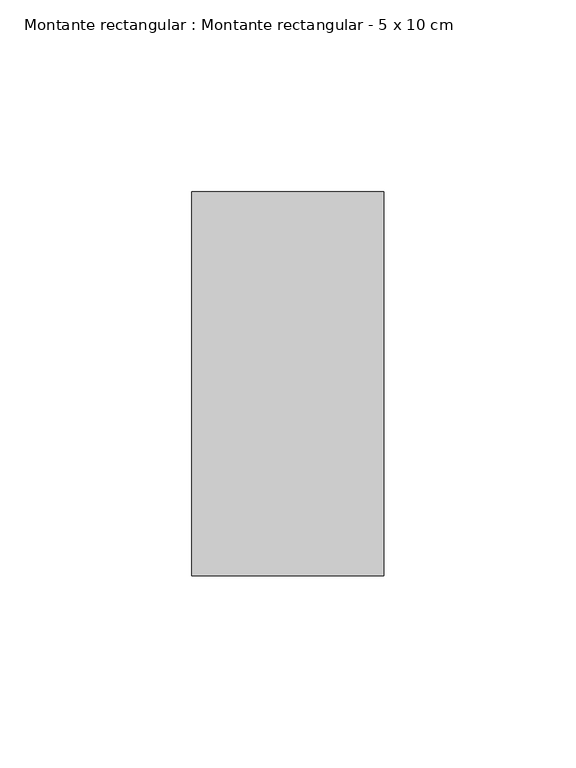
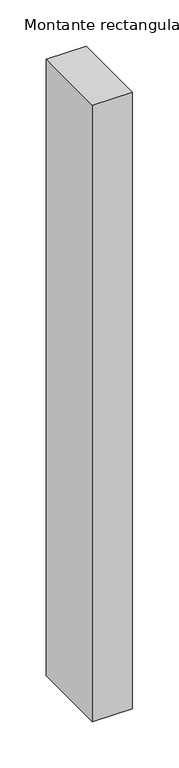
"""IFC4 building model written with IfcOpenShell, lengths in millimetres: member geometry, Montante rectangular : Montante rectangular - 5 x 10 cm."""

from ifc_helpers import new_model, si_unit, frame, origin, place, context, project, spatial, polyline, outline, extrude, source, transform, mapped, element, save


def montante_rectangular_montante_rectangular_5_x_10_cm_9fe93aea(model_context):
    return source(origin(), model_context, "Body", "SweptSolid", [
        extrude(outline(polyline([(-50.0, 50.0), (0.0, 50.0), (0.0, -50.0), (-50.0, -50.0), (-50.0, 50.0)])), frame((0.0, 0.0, -814.9389156), z_axis=(0.0, 0.0, 1.0), x_axis=(1.0, 0.0, 0.0)), (0.0, 0.0, 1.0), 814.9389156),
    ])


if __name__ == "__main__":
    model = new_model("IFC4")
    model_context = context("Model", 3, world=origin())
    ifc_project = project(units=[si_unit("LENGTHUNIT", "METRE", prefix="MILLI")], contexts=[model_context])
    site = spatial("IfcSite", under=ifc_project)
    building = spatial("IfcBuilding", under=site)
    placement = place(None, origin())
    montante_rectangular_montante_rectangular_5_x_10_cm_shape = montante_rectangular_montante_rectangular_5_x_10_cm_9fe93aea(model_context)
    element("IfcMember", 1, ObjectType="Montante rectangular : Montante rectangular - 5 x 10 cm", at=placement, inside=building, context=model_context, shape_type="MappedRepresentation", body=[
        mapped(montante_rectangular_montante_rectangular_5_x_10_cm_shape, transform((0.0, 0.0, 0.0), x_axis=(1.0, 0.0, 0.0), y_axis=(0.0, 1.0, 0.0), z_axis=(0.0, 0.0, 1.0))),
    ])
    save(model, "model.ifc")
